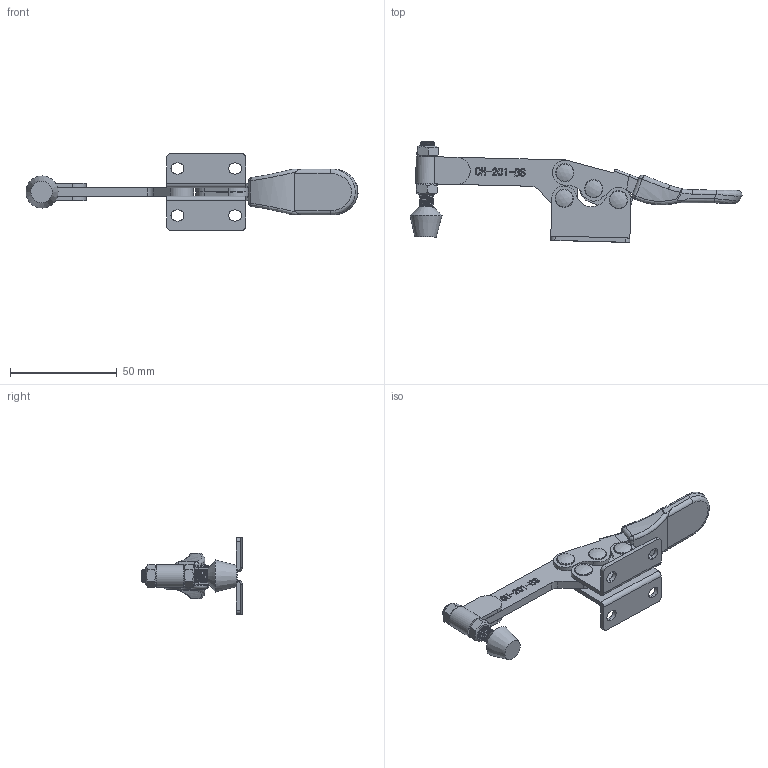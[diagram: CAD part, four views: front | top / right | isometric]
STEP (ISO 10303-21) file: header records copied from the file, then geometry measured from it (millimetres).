
FILE_DESCRIPTION(/* description */ ('STEP AP203'),/* implementation_level */ '2;1');
FILE_NAME(/* name */ 'E:\STRONA\Horizontal toggle clamp\CH-201-BS\CH-201-BS_ZAMKNIETY.stp',/* time_stamp */ '2019-01-15T15:33:47+01:00',/* author */ ('Admin'),/* organization */ ('·L?¤¤?'),/* preprocessor_version */ 'ST-DEVELOPER v17.2',/* originating_system */ 'Autodesk Inventor 2019',/* authorisation */ '');
FILE_SCHEMA (('AUTOMOTIVE_DESIGN { 1 0 10303 214 3 1 1 }'));
Length unit declared in the file: millimetre
Products named in the file (11): CH-201-BS_ZAMKNIETY; 201-BS-02___; 14134___; 201-B-04___; 14134-02___; BR-142___; 201-B___; 201-B-05___; 201-B-03___; 201-B-01___; 201-B-06___
Assembly tree (15 placements, depth 3):
  CH-201-BS_ZAMKNIETY
    14134-02___  x2
    201-B-04___  x2
    201-BS-02___
    201-B-06___  x4
    14134___
    BR-142___
    201-B___
      201-B-05___
      201-B-03___
    201-B-01___
Bounding box: 155.27 x 47.18 x 36 mm (x, y, z)
Volume: 22714.8 mm3; surface area: 24181.6 mm2
Topology: 15 solids, 17 shells, 661 faces, 1818 edges, 1221 vertices
Faces by surface type: plane 261, bspline 215, cylinder 144, cone 18, torus 18, sphere 5
Full cylindrical faces by diameter (mm): 1.7 x1, 2.2 x1, 3.494 x4, 4.7 x4, 4.78 x4, 4.8 x10, 5.1 x6, 6.4 x26, 8.5 x8
Entity records: 49488 total; most frequent: CARTESIAN_POINT 35265, ORIENTED_EDGE 3272, DIRECTION 2177, EDGE_CURVE 1636, VERTEX_POINT 1094, LINE 849, VECTOR 849, AXIS2_PLACEMENT_3D 664
